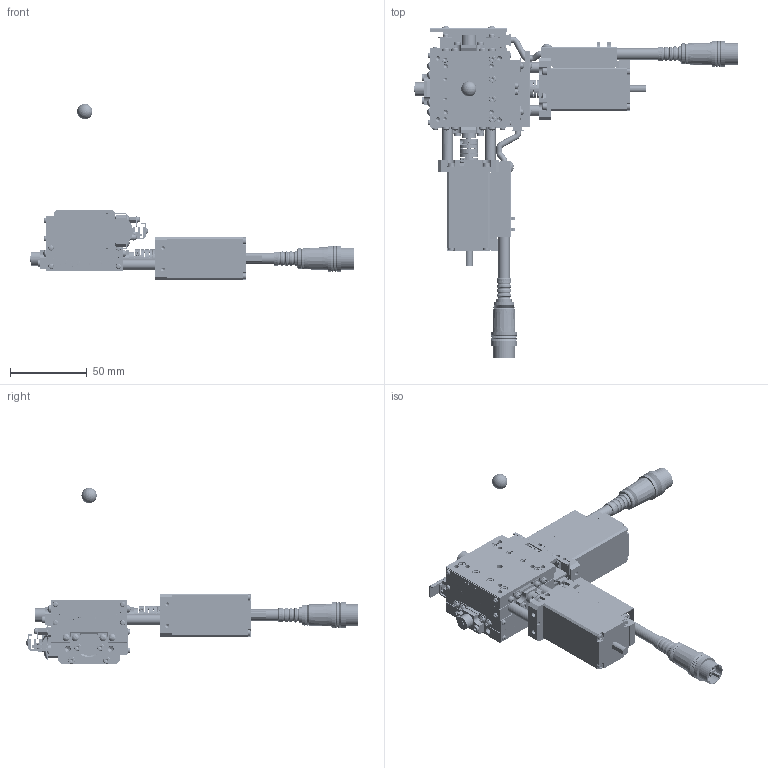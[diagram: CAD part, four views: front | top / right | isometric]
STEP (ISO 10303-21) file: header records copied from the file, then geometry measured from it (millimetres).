
FILE_DESCRIPTION (( 'STEP AP203' ), '1' );
FILE_NAME ('SA05B-RL02.STEP', '2019-02-26T08:38:01', ( '' ), ( '' ), 'SwSTEP 2.0', 'SolidWorks 2018', '' );
FILE_SCHEMA (( 'CONFIG_CONTROL_DESIGN' ));
Length unit declared in the file: millimetre
Products named in the file (12): SA05B-RL02; table; base-Part-2; base; second table; second table-Part-2; base-Part-3; rotation center; second table-Part-3; second table-Part-1; base-Part-1; table-Part-1
Assembly tree (11 placements, depth 3):
  SA05B-RL02
    table
      table-Part-1
    second table
      second table-Part-1
      second table-Part-2
      second table-Part-3
    base
      base-Part-1
      base-Part-2
      base-Part-3
    rotation center
Bounding box: 211 x 216.68 x 115 mm (x, y, z)
Volume: 216881.8 mm3; surface area: 95801 mm2
Topology: 8 solids, 10 shells, 5450 faces, 13697 edges, 8480 vertices
Faces by surface type: plane 3389, cylinder 1243, cone 452, torus 256, sphere 98, bspline 12
Entity records: 166934 total; most frequent: CARTESIAN_POINT 32857, DIRECTION 28743, ORIENTED_EDGE 27000, EDGE_CURVE 13500, AXIS2_PLACEMENT_3D 10103, VECTOR 8537, LINE 8537, VERTEX_POINT 8469
